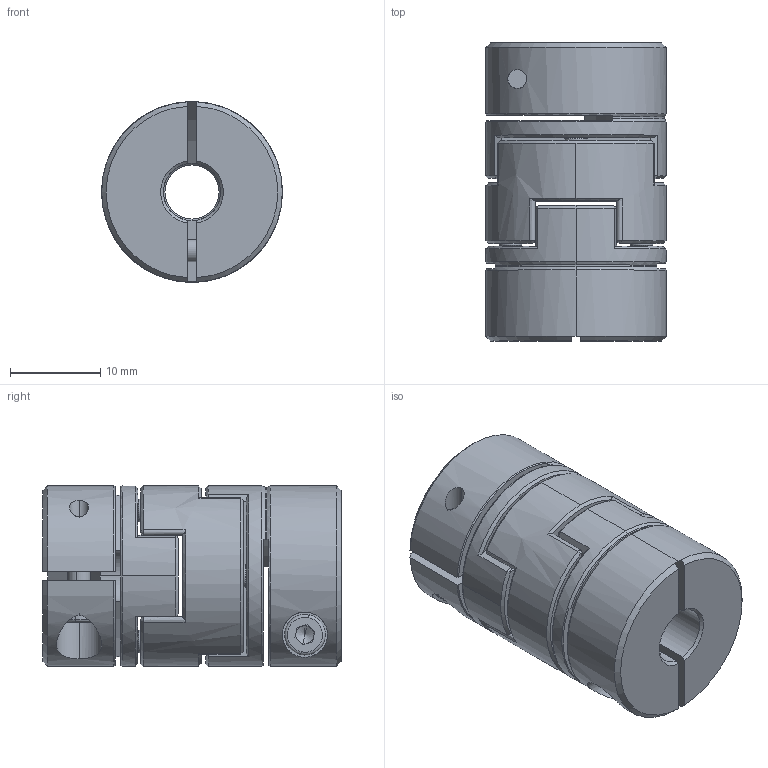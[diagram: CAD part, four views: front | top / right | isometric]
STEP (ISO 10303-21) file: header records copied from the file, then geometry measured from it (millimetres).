
FILE_DESCRIPTION (( 'STEP AP203' ), '1' );
FILE_NAME ('LZ-B-D20L33-6-6.35.STEP', '2021-10-29T05:37:27', ( '' ), ( '' ), 'SwSTEP 2.0', 'SolidWorks 2018', '' );
FILE_SCHEMA (( 'CONFIG_CONTROL_DESIGN' ));
Length unit declared in the file: millimetre
Products named in the file (1): LZ-B-D20L33-6-6.35
Bounding box: 20 x 33 x 20 mm (x, y, z)
Volume: 8520.2 mm3; surface area: 6112.3 mm2
Topology: 3 solids, 3 shells, 248 faces, 632 edges, 400 vertices
Faces by surface type: plane 112, cylinder 64, cone 42, bspline 26, torus 4
Entity records: 10263 total; most frequent: CARTESIAN_POINT 4455, ORIENTED_EDGE 1256, DIRECTION 1116, EDGE_CURVE 628, AXIS2_PLACEMENT_3D 431, VERTEX_POINT 400, EDGE_LOOP 276, VECTOR 254
